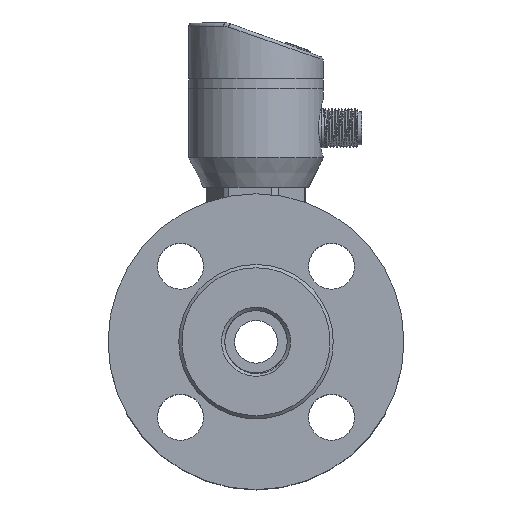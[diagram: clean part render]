
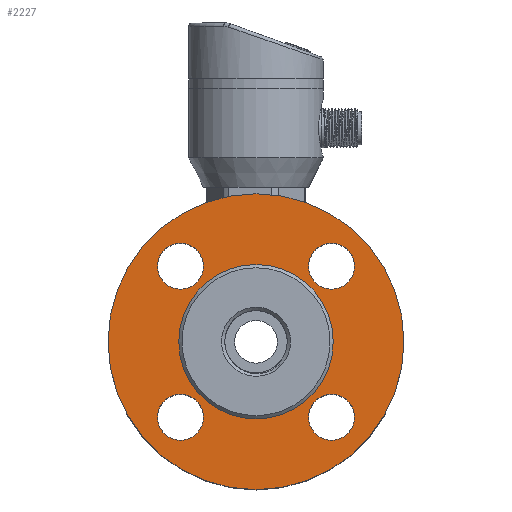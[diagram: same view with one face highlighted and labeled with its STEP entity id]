
A CAD part, top view. The second image highlights one B-rep face of the part: STEP entity #2227.
In plain terms, the highlighted planar face has unit normal (0, 0, 1).
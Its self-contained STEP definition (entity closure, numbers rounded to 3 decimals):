
#1652=PLANE('',#8663);
#2227=ADVANCED_FACE('',(#3233,#3234,#3235,#3236,#3237,#3238),#1652,.T.);
#2828=CIRCLE('',#8650,45.);
#2830=CIRCLE('',#8653,7.);
#2832=CIRCLE('',#8656,7.);
#2834=CIRCLE('',#8659,7.);
#2835=CIRCLE('',#8661,23.5);
#2836=CIRCLE('',#8662,7.);
#3233=FACE_BOUND('',#3486,.T.);
#3234=FACE_BOUND('',#3487,.T.);
#3235=FACE_BOUND('',#3488,.T.);
#3236=FACE_BOUND('',#3489,.T.);
#3237=FACE_BOUND('',#3490,.T.);
#3238=FACE_BOUND('',#3491,.T.);
#3486=EDGE_LOOP('',(#4878));
#3487=EDGE_LOOP('',(#4879));
#3488=EDGE_LOOP('',(#4880));
#3489=EDGE_LOOP('',(#4881));
#3490=EDGE_LOOP('',(#4882));
#3491=EDGE_LOOP('',(#4883));
#4878=ORIENTED_EDGE('',*,*,#7473,.T.);
#4879=ORIENTED_EDGE('',*,*,#7466,.F.);
#4880=ORIENTED_EDGE('',*,*,#7474,.T.);
#4881=ORIENTED_EDGE('',*,*,#7470,.T.);
#4882=ORIENTED_EDGE('',*,*,#7472,.T.);
#4883=ORIENTED_EDGE('',*,*,#7468,.T.);
#6800=VERTEX_POINT('',#13174);
#6802=VERTEX_POINT('',#13179);
#6804=VERTEX_POINT('',#13184);
#6806=VERTEX_POINT('',#13189);
#6807=VERTEX_POINT('',#13192);
#6808=VERTEX_POINT('',#13194);
#7466=EDGE_CURVE('',#6800,#6800,#2828,.T.);
#7468=EDGE_CURVE('',#6802,#6802,#2830,.T.);
#7470=EDGE_CURVE('',#6804,#6804,#2832,.T.);
#7472=EDGE_CURVE('',#6806,#6806,#2834,.T.);
#7473=EDGE_CURVE('',#6807,#6807,#2835,.T.);
#7474=EDGE_CURVE('',#6808,#6808,#2836,.T.);
#8650=AXIS2_PLACEMENT_3D('',#13173,#9508,#9509);
#8653=AXIS2_PLACEMENT_3D('',#13178,#9514,#9515);
#8656=AXIS2_PLACEMENT_3D('',#13183,#9520,#9521);
#8659=AXIS2_PLACEMENT_3D('',#13188,#9526,#9527);
#8661=AXIS2_PLACEMENT_3D('',#13191,#9530,#9531);
#8662=AXIS2_PLACEMENT_3D('',#13193,#9532,#9533);
#8663=AXIS2_PLACEMENT_3D('',#13195,#9534,#9535);
#9508=DIRECTION('',(0.,0.,-1.));
#9509=DIRECTION('',(1.,0.,0.));
#9514=DIRECTION('',(0.,0.,-1.));
#9515=DIRECTION('',(1.,0.,0.));
#9520=DIRECTION('',(0.,0.,-1.));
#9521=DIRECTION('',(1.,0.,0.));
#9526=DIRECTION('',(0.,0.,-1.));
#9527=DIRECTION('',(1.,0.,0.));
#9530=DIRECTION('',(0.,0.,-1.));
#9531=DIRECTION('',(1.,0.,0.));
#9532=DIRECTION('',(0.,0.,-1.));
#9533=DIRECTION('',(1.,0.,0.));
#9534=DIRECTION('',(0.,0.,1.));
#9535=DIRECTION('',(-1.,0.,0.));
#13173=CARTESIAN_POINT('',(0.,0.,23.5));
#13174=CARTESIAN_POINT('',(45.,0.,23.5));
#13178=CARTESIAN_POINT('',(-22.981,-22.981,23.5));
#13179=CARTESIAN_POINT('',(-15.981,-22.981,23.5));
#13183=CARTESIAN_POINT('',(22.981,-22.981,23.5));
#13184=CARTESIAN_POINT('',(29.981,-22.981,23.5));
#13188=CARTESIAN_POINT('',(-22.981,22.981,23.5));
#13189=CARTESIAN_POINT('',(-15.981,22.981,23.5));
#13191=CARTESIAN_POINT('',(0.,0.,23.5));
#13192=CARTESIAN_POINT('',(23.5,0.,23.5));
#13193=CARTESIAN_POINT('',(22.981,22.981,23.5));
#13194=CARTESIAN_POINT('',(29.981,22.981,23.5));
#13195=CARTESIAN_POINT('',(0.,0.,23.5));
